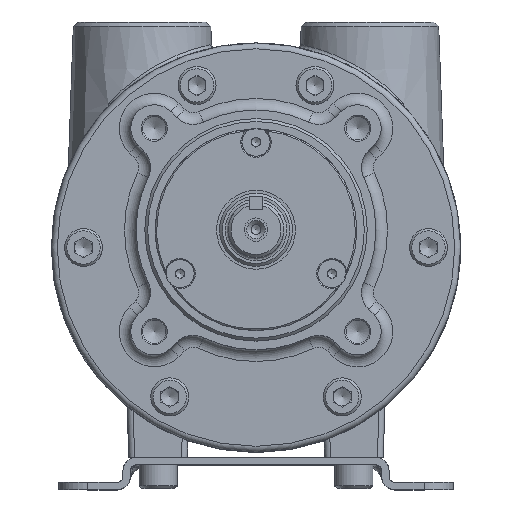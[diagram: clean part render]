
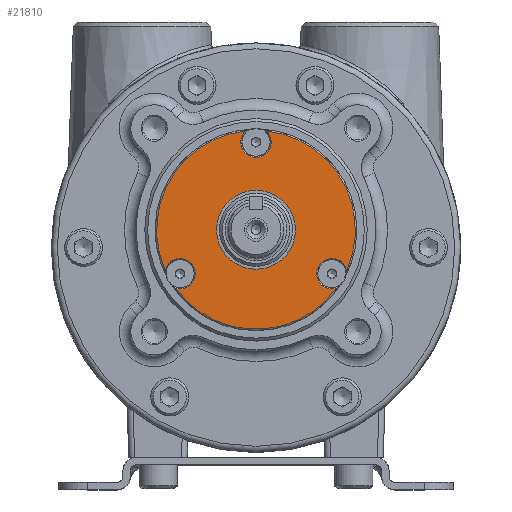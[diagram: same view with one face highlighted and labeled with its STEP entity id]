
A CAD part, top view. The second image highlights one B-rep face of the part: STEP entity #21810.
In plain terms, the highlighted planar face has unit normal (0, 0, 1).
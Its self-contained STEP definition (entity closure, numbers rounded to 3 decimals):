
#195 = VERTEX_POINT ( 'NONE', #15124 ) ;
#818 = EDGE_CURVE ( 'NONE', #23929, #30412, #17376, .T. ) ;
#1059 = DIRECTION ( 'NONE',  ( -1., 0., 0. ) ) ;
#1200 = EDGE_LOOP ( 'NONE', ( #2906 ) ) ;
#1205 = DIRECTION ( 'NONE',  ( 0., 0., -1. ) ) ;
#1208 = DIRECTION ( 'NONE',  ( 0., 0., -1. ) ) ;
#1250 = CARTESIAN_POINT ( 'NONE',  ( -31.052, -7.849, 84.15 ) ) ;
#1372 = CARTESIAN_POINT ( 'NONE',  ( 0., 36., 84.15 ) ) ;
#1609 = VERTEX_POINT ( 'NONE', #1250 ) ;
#2906 = ORIENTED_EDGE ( 'NONE', *, *, #28091, .F. ) ;
#3054 = AXIS2_PLACEMENT_3D ( 'NONE', #26770, #1205, #1059 ) ;
#3394 = DIRECTION ( 'NONE',  ( 1., 0., 0. ) ) ;
#3921 = AXIS2_PLACEMENT_3D ( 'NONE', #15202, #24602, #3394 ) ;
#4403 = AXIS2_PLACEMENT_3D ( 'NONE', #10772, #27767, #27305 ) ;
#5510 = CIRCLE ( 'NONE', #3054, 34. ) ;
#5716 = CIRCLE ( 'NONE', #26487, 13.5 ) ;
#5750 = CARTESIAN_POINT ( 'NONE',  ( -3.532, 39.816, 84.15 ) ) ;
#5860 = CARTESIAN_POINT ( 'NONE',  ( -25.981, -9., 84.15 ) ) ;
#6148 = CIRCLE ( 'NONE', #11141, 5.2 ) ;
#6310 = DIRECTION ( 'NONE',  ( 1., 0., 0. ) ) ;
#7064 = EDGE_CURVE ( 'NONE', #24788, #195, #5510, .T. ) ;
#7215 = AXIS2_PLACEMENT_3D ( 'NONE', #29695, #1208, #24727 ) ;
#8668 = VERTEX_POINT ( 'NONE', #5750 ) ;
#8966 = ORIENTED_EDGE ( 'NONE', *, *, #27511, .F. ) ;
#9078 = ORIENTED_EDGE ( 'NONE', *, *, #818, .F. ) ;
#9498 = ORIENTED_EDGE ( 'NONE', *, *, #13312, .F. ) ;
#9878 = DIRECTION ( 'NONE',  ( 0., 0., -1. ) ) ;
#10772 = CARTESIAN_POINT ( 'NONE',  ( 0., 19.5, 84.15 ) ) ;
#11141 = AXIS2_PLACEMENT_3D ( 'NONE', #1372, #18434, #24897 ) ;
#11188 = CARTESIAN_POINT ( 'NONE',  ( 0., 6., 84.15 ) ) ;
#11274 = EDGE_CURVE ( 'NONE', #30412, #1609, #29309, .T. ) ;
#13312 = EDGE_CURVE ( 'NONE', #1609, #8668, #17660, .T. ) ;
#13651 = CARTESIAN_POINT ( 'NONE',  ( 0., 6., 84.15 ) ) ;
#14023 = VERTEX_POINT ( 'NONE', #21126 ) ;
#15124 = CARTESIAN_POINT ( 'NONE',  ( 31.052, -7.849, 84.15 ) ) ;
#15202 = CARTESIAN_POINT ( 'NONE',  ( 25.981, -9., 84.15 ) ) ;
#15863 = ORIENTED_EDGE ( 'NONE', *, *, #17708, .F. ) ;
#15888 = FACE_OUTER_BOUND ( 'NONE', #22372, .T. ) ;
#16925 = CARTESIAN_POINT ( 'NONE',  ( 3.532, 39.816, 84.15 ) ) ;
#17376 = CIRCLE ( 'NONE', #28184, 34. ) ;
#17660 = CIRCLE ( 'NONE', #7215, 34. ) ;
#17708 = EDGE_CURVE ( 'NONE', #195, #23929, #21793, .T. ) ;
#18365 = PLANE ( 'NONE',  #4403 ) ;
#18434 = DIRECTION ( 'NONE',  ( 0., 0., 1. ) ) ;
#18469 = AXIS2_PLACEMENT_3D ( 'NONE', #5860, #29864, #6310 ) ;
#19700 = ORIENTED_EDGE ( 'NONE', *, *, #7064, .F. ) ;
#21126 = CARTESIAN_POINT ( 'NONE',  ( 13.5, 6., 84.15 ) ) ;
#21247 = ORIENTED_EDGE ( 'NONE', *, *, #11274, .F. ) ;
#21510 = CARTESIAN_POINT ( 'NONE',  ( -27.519, -13.967, 84.15 ) ) ;
#21793 = CIRCLE ( 'NONE', #3921, 5.2 ) ;
#21810 = ADVANCED_FACE ( 'NONE', ( #15888, #30092 ), #18365, .F. ) ;
#22372 = EDGE_LOOP ( 'NONE', ( #9498, #21247, #9078, #15863, #19700, #8966 ) ) ;
#23371 = DIRECTION ( 'NONE',  ( 0., 1., 0. ) ) ;
#23929 = VERTEX_POINT ( 'NONE', #24123 ) ;
#24123 = CARTESIAN_POINT ( 'NONE',  ( 27.519, -13.967, 84.15 ) ) ;
#24602 = DIRECTION ( 'NONE',  ( 0., 0., 1. ) ) ;
#24727 = DIRECTION ( 'NONE',  ( -1., 0., 0. ) ) ;
#24788 = VERTEX_POINT ( 'NONE', #16925 ) ;
#24897 = DIRECTION ( 'NONE',  ( 1., 0., 0. ) ) ;
#26487 = AXIS2_PLACEMENT_3D ( 'NONE', #11188, #30046, #28026 ) ;
#26770 = CARTESIAN_POINT ( 'NONE',  ( 0., 6., 84.15 ) ) ;
#27305 = DIRECTION ( 'NONE',  ( -1., 0., 0. ) ) ;
#27511 = EDGE_CURVE ( 'NONE', #8668, #24788, #6148, .T. ) ;
#27767 = DIRECTION ( 'NONE',  ( 0., 0., -1. ) ) ;
#28026 = DIRECTION ( 'NONE',  ( 1., 0., 0. ) ) ;
#28091 = EDGE_CURVE ( 'NONE', #14023, #14023, #5716, .T. ) ;
#28184 = AXIS2_PLACEMENT_3D ( 'NONE', #13651, #9878, #23371 ) ;
#29309 = CIRCLE ( 'NONE', #18469, 5.2 ) ;
#29695 = CARTESIAN_POINT ( 'NONE',  ( 0., 6., 84.15 ) ) ;
#29864 = DIRECTION ( 'NONE',  ( 0., 0., 1. ) ) ;
#30046 = DIRECTION ( 'NONE',  ( 0., 0., 1. ) ) ;
#30092 = FACE_BOUND ( 'NONE', #1200, .T. ) ;
#30412 = VERTEX_POINT ( 'NONE', #21510 ) ;
